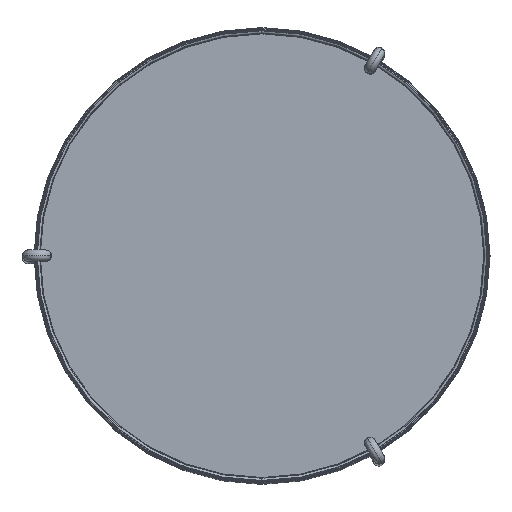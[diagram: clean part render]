
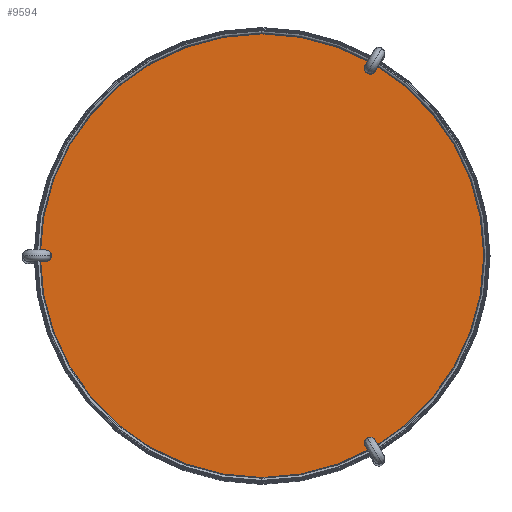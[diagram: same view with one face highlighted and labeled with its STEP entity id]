
A CAD part, top view. The second image highlights one B-rep face of the part: STEP entity #9594.
In plain terms, the highlighted planar face has unit normal (0, 0, 1).
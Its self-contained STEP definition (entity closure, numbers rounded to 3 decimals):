
#315=FACE_BOUND('',#1698,.T.);
#316=FACE_BOUND('',#1699,.T.);
#317=FACE_BOUND('',#1700,.T.);
#414=PLANE('',#10519);
#1038=FACE_OUTER_BOUND('',#1697,.T.);
#1697=EDGE_LOOP('',(#7893,#7894));
#1698=EDGE_LOOP('',(#7895,#7896));
#1699=EDGE_LOOP('',(#7897,#7898));
#1700=EDGE_LOOP('',(#7899,#7900));
#3634=CIRCLE('',#10509,2.5);
#3636=CIRCLE('',#10512,2.5);
#3638=CIRCLE('',#10515,2.5);
#3639=CIRCLE('',#10517,195.);
#3641=CIRCLE('',#10520,195.);
#3642=CIRCLE('',#10521,2.5);
#3643=CIRCLE('',#10522,2.5);
#3644=CIRCLE('',#10523,2.5);
#4421=VERTEX_POINT('',#18880);
#4423=VERTEX_POINT('',#18884);
#4425=VERTEX_POINT('',#18889);
#4427=VERTEX_POINT('',#18893);
#4429=VERTEX_POINT('',#18898);
#4431=VERTEX_POINT('',#18902);
#4432=VERTEX_POINT('',#18906);
#4433=VERTEX_POINT('',#18907);
#5646=EDGE_CURVE('',#4421,#4423,#3634,.T.);
#5650=EDGE_CURVE('',#4425,#4427,#3636,.T.);
#5654=EDGE_CURVE('',#4429,#4431,#3638,.T.);
#5655=EDGE_CURVE('',#4432,#4433,#3639,.T.);
#5659=EDGE_CURVE('',#4432,#4433,#3641,.T.);
#5660=EDGE_CURVE('',#4429,#4431,#3642,.T.);
#5661=EDGE_CURVE('',#4425,#4427,#3643,.T.);
#5662=EDGE_CURVE('',#4421,#4423,#3644,.T.);
#7893=ORIENTED_EDGE('',*,*,#5655,.T.);
#7894=ORIENTED_EDGE('',*,*,#5659,.F.);
#7895=ORIENTED_EDGE('',*,*,#5660,.F.);
#7896=ORIENTED_EDGE('',*,*,#5654,.T.);
#7897=ORIENTED_EDGE('',*,*,#5661,.F.);
#7898=ORIENTED_EDGE('',*,*,#5650,.T.);
#7899=ORIENTED_EDGE('',*,*,#5662,.F.);
#7900=ORIENTED_EDGE('',*,*,#5646,.T.);
#9594=ADVANCED_FACE('',(#1038,#315,#316,#317),#414,.T.);
#10509=AXIS2_PLACEMENT_3D('',#18886,#12480,#12481);
#10512=AXIS2_PLACEMENT_3D('',#18895,#12488,#12489);
#10515=AXIS2_PLACEMENT_3D('',#18904,#12496,#12497);
#10517=AXIS2_PLACEMENT_3D('',#18908,#12500,#12501);
#10519=AXIS2_PLACEMENT_3D('',#18914,#12506,#12507);
#10520=AXIS2_PLACEMENT_3D('',#18915,#12508,#12509);
#10521=AXIS2_PLACEMENT_3D('',#18916,#12510,#12511);
#10522=AXIS2_PLACEMENT_3D('',#18917,#12512,#12513);
#10523=AXIS2_PLACEMENT_3D('',#18918,#12514,#12515);
#12480=DIRECTION('center_axis',(0.,0.,-1.));
#12481=DIRECTION('ref_axis',(-1.,0.,0.));
#12488=DIRECTION('center_axis',(0.,0.,-1.));
#12489=DIRECTION('ref_axis',(-1.,0.,0.));
#12496=DIRECTION('center_axis',(0.,0.,-1.));
#12497=DIRECTION('ref_axis',(-1.,0.,0.));
#12500=DIRECTION('center_axis',(0.,0.,1.));
#12501=DIRECTION('ref_axis',(0.,1.,0.));
#12506=DIRECTION('center_axis',(0.,0.,1.));
#12507=DIRECTION('ref_axis',(0.,-1.,0.));
#12508=DIRECTION('center_axis',(0.,0.,-1.));
#12509=DIRECTION('ref_axis',(0.,-1.,0.));
#12510=DIRECTION('center_axis',(0.,0.,1.));
#12511=DIRECTION('ref_axis',(1.,0.,0.));
#12512=DIRECTION('center_axis',(0.,0.,1.));
#12513=DIRECTION('ref_axis',(1.,0.,0.));
#12514=DIRECTION('center_axis',(0.,0.,1.));
#12515=DIRECTION('ref_axis',(1.,0.,0.));
#18880=CARTESIAN_POINT('',(92.5,-164.545,1190.989));
#18884=CARTESIAN_POINT('',(97.5,-164.545,1190.989));
#18886=CARTESIAN_POINT('Origin',(95.,-164.545,1190.989));
#18889=CARTESIAN_POINT('',(-192.5,0.,1190.989));
#18893=CARTESIAN_POINT('',(-187.5,0.,1190.989));
#18895=CARTESIAN_POINT('Origin',(-190.,0.,1190.989));
#18898=CARTESIAN_POINT('',(92.5,164.545,1190.989));
#18902=CARTESIAN_POINT('',(97.5,164.545,1190.989));
#18904=CARTESIAN_POINT('Origin',(95.,164.545,1190.989));
#18906=CARTESIAN_POINT('',(195.,0.,1190.989));
#18907=CARTESIAN_POINT('',(-195.,0.,1190.989));
#18908=CARTESIAN_POINT('Origin',(0.,0.,
1190.989));
#18914=CARTESIAN_POINT('Origin',(-195.01,0.,1190.989));
#18915=CARTESIAN_POINT('Origin',(0.,0.,
1190.989));
#18916=CARTESIAN_POINT('Origin',(95.,164.545,1190.989));
#18917=CARTESIAN_POINT('Origin',(-190.,0.,1190.989));
#18918=CARTESIAN_POINT('Origin',(95.,-164.545,1190.989));
